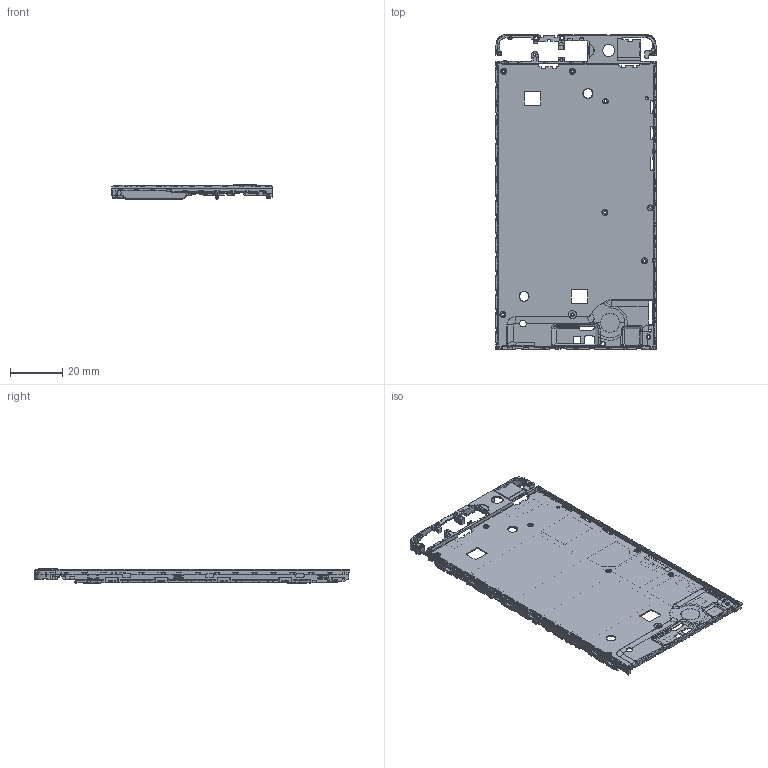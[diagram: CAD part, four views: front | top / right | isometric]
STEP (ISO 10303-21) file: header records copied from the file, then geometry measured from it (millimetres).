
FILE_DESCRIPTION((''),'2;1');
FILE_NAME('A_COVER_SIMPLE_ASM','2026-03-31T19:00:20',('w00485078'),(''),'CREO PARAMETRIC BY PTC INC, 2018190','CREO PARAMETRIC BY PTC INC, 2018190','');
FILE_SCHEMA(('CONFIG_CONTROL_DESIGN'));
Products named in the file (2): INSERT_3__1; A_COVER_SIMPLE_ASM
Assembly tree (1 placements, depth 2):
  A_COVER_SIMPLE_ASM
    INSERT_3__1
Bounding box: 61.21 x 120.16 x 5.42 mm (x, y, z)
Surface area: 35780.5 mm2 (no closed solid volume)
Topology: 0 solids, 2 shells, 11402 faces, 31060 edges, 19515 vertices
Faces by surface type: plane 4338, cylinder 4222, bspline 1672, torus 618, cone 452, sphere 84, extrusion 16
Entity records: 430268 total; most frequent: CARTESIAN_POINT 164985, ORIENTED_EDGE 61924, DIRECTION 46049, EDGE_CURVE 30973, VERTEX_POINT 19515, VECTOR 16405, LINE 16389, AXIS2_PLACEMENT_3D 14822
